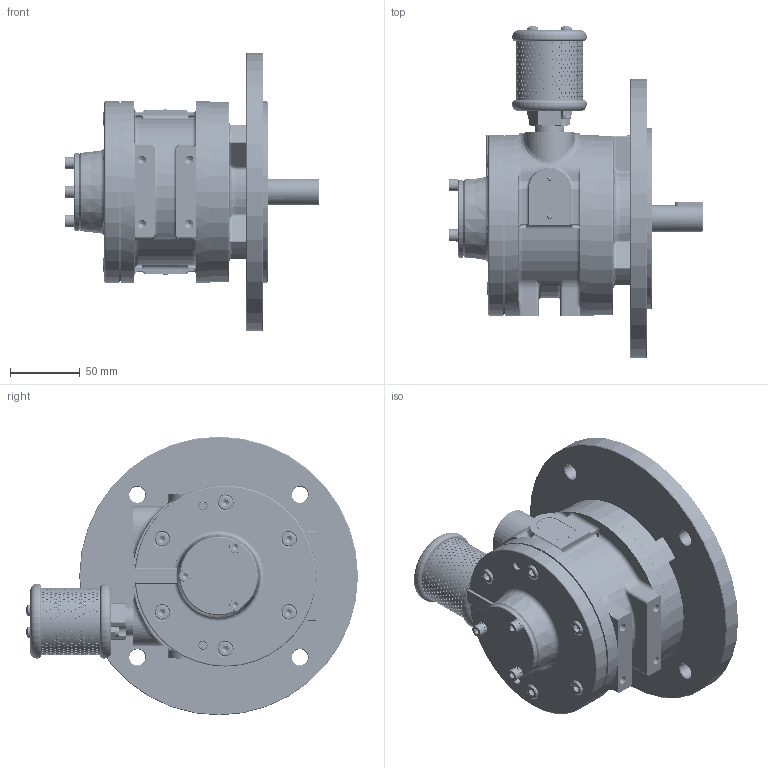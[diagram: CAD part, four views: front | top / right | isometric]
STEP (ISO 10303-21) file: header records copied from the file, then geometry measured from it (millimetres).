
FILE_DESCRIPTION (( 'STEP AP214' ), '1' );
FILE_NAME ('6VMD (IEC)_Solid 31-07-25.STEP', '2025-07-31T10:05:26', ( '' ), ( '' ), 'SwSTEP 2.0', 'SolidWorks 2017', '' );
FILE_SCHEMA (( 'AUTOMOTIVE_DESIGN' ));
Length unit declared in the file: millimetre
Products named in the file (2): 6VMD (IEC)_Solid 31-07-25
Bounding box: 181.83 x 238.2 x 200 mm (x, y, z)
Volume: 1612447.8 mm3; surface area: 431565.7 mm2
Topology: 87 solids, 87 shells, 5208 faces, 13614 edges, 8465 vertices
Faces by surface type: cylinder 2619, cone 1118, plane 977, torus 308, bspline 132, sphere 54
Entity records: 265492 total; most frequent: CARTESIAN_POINT 82402, ORIENTED_EDGE 26832, DIRECTION 23897, EDGE_CURVE 13416, AXIS2_PLACEMENT_3D 9359, VERTEX_POINT 8441, EDGE_LOOP 6949, UNCERTAINTY_MEASURE_WITH_UNIT 5297
